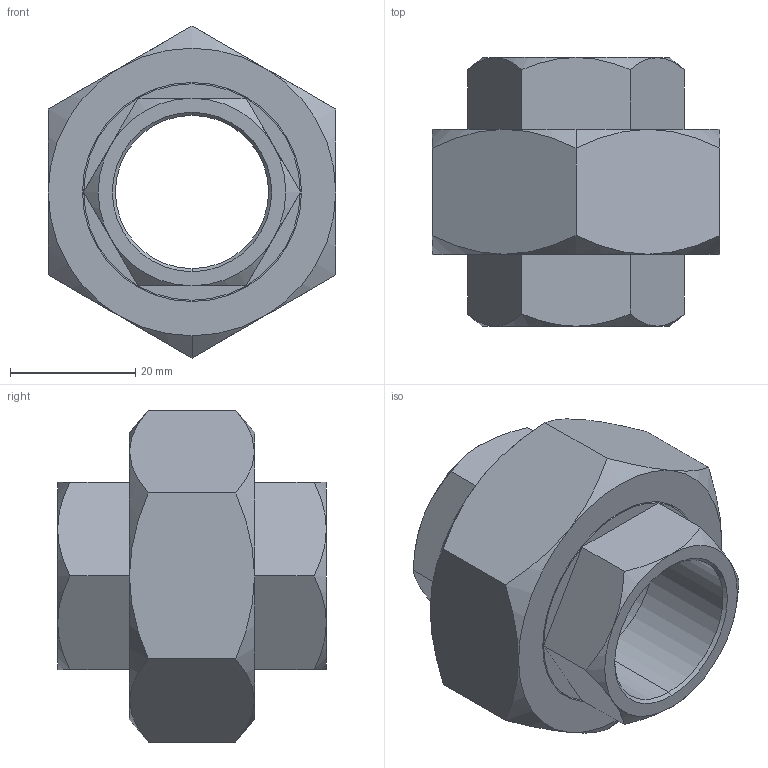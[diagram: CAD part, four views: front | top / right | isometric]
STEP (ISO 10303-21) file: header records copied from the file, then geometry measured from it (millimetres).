
FILE_DESCRIPTION (( 'STEP AP203' ), '1' );
FILE_NAME ('AXH14 B5B5 00.STEP', '2018-11-17T14:31:47', ( '' ), ( '' ), 'SwSTEP 2.0', 'SolidWorks 2013', '' );
FILE_SCHEMA (( 'CONFIG_CONTROL_DESIGN' ));
Length unit declared in the file: millimetre
Products named in the file (1): AXH14 B5B5 00
Bounding box: 46 x 43 x 53.12 mm (x, y, z)
Volume: 32088.6 mm3; surface area: 12600.2 mm2
Topology: 1 solids, 1 shells, 88 faces, 180 edges, 100 vertices
Faces by surface type: plane 38, cone 34, cylinder 16
Entity records: 2661 total; most frequent: CARTESIAN_POINT 785, DIRECTION 386, ORIENTED_EDGE 360, EDGE_CURVE 180, AXIS2_PLACEMENT_3D 165, VERTEX_POINT 100, EDGE_LOOP 96, ADVANCED_FACE 88
